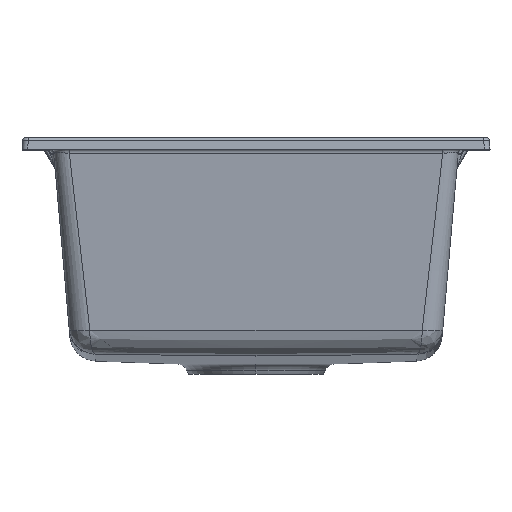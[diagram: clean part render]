
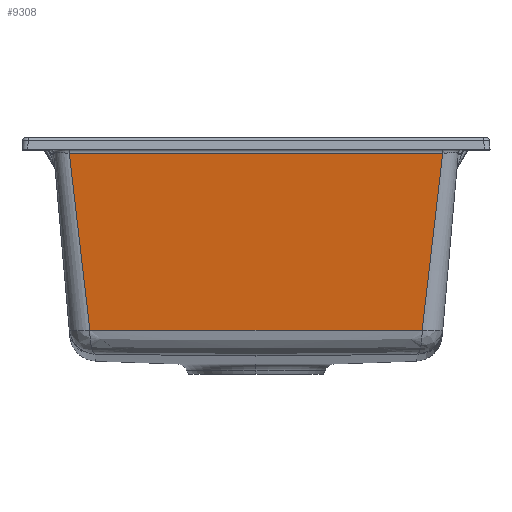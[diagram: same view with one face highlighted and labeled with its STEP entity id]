
A CAD part, top view. The second image highlights one B-rep face of the part: STEP entity #9308.
In plain terms, the highlighted planar face has unit normal (0, -0.087, 0.996).
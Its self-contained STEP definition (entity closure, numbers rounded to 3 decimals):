
#75 = CARTESIAN_POINT ( 'NONE',  ( -97.068, -159.216, 208.467 ) ) ;
#899 = CARTESIAN_POINT ( 'NONE',  ( 145.605, -158.409, 208.537 ) ) ;
#994 = VECTOR ( 'NONE', #8248, 1000. ) ;
#1011 = CARTESIAN_POINT ( 'NONE',  ( -145.598, -158.481, 208.531 ) ) ;
#1148 = ORIENTED_EDGE ( 'NONE', *, *, #4199, .F. ) ;
#1335 = EDGE_CURVE ( 'NONE', #4014, #8077, #7120, .T. ) ;
#1364 = CARTESIAN_POINT ( 'NONE',  ( 145.603, -158.433, 208.535 ) ) ;
#1440 = ORIENTED_EDGE ( 'NONE', *, *, #3522, .F. ) ;
#1574 = VERTEX_POINT ( 'NONE', #2036 ) ;
#1577 = EDGE_LOOP ( 'NONE', ( #1148, #3797, #9979, #1440, #9110, #5583 ) ) ;
#1830 = CARTESIAN_POINT ( 'NONE',  ( -145.601, -158.457, 208.533 ) ) ;
#1853 = CARTESIAN_POINT ( 'NONE',  ( -163.56, -3.564, 222.085 ) ) ;
#1860 = B_SPLINE_CURVE_WITH_KNOTS ( 'NONE', 3,
 ( #8272, #1830, #10132, #4564 ),
 .UNSPECIFIED., .F., .F.,
 ( 4, 4 ),
 ( 0., 0. ),
 .UNSPECIFIED. ) ;
#2036 = CARTESIAN_POINT ( 'NONE',  ( -145.598, -158.481, 208.531 ) ) ;
#2287 = CARTESIAN_POINT ( 'NONE',  ( 145.605, -158.409, 208.537 ) ) ;
#2934 = EDGE_CURVE ( 'NONE', #4298, #10573, #9795, .T. ) ;
#3522 = EDGE_CURVE ( 'NONE', #1574, #4298, #1860, .T. ) ;
#3714 = CARTESIAN_POINT ( 'NONE',  ( 97.068, -159.216, 208.467 ) ) ;
#3797 = ORIENTED_EDGE ( 'NONE', *, *, #8953, .T. ) ;
#4014 = VERTEX_POINT ( 'NONE', #2287 ) ;
#4070 = CARTESIAN_POINT ( 'NONE',  ( 145.605, -158.409, 208.537 ) ) ;
#4199 = EDGE_CURVE ( 'NONE', #6900, #4014, #9551, .T. ) ;
#4298 = VERTEX_POINT ( 'NONE', #9732 ) ;
#4392 = CARTESIAN_POINT ( 'NONE',  ( -150.132, -106.667, 213.064 ) ) ;
#4564 = CARTESIAN_POINT ( 'NONE',  ( -145.605, -158.409, 208.537 ) ) ;
#4587 = DIRECTION ( 'NONE',  ( 0., -0.087, 0.996 ) ) ;
#4626 = CARTESIAN_POINT ( 'NONE',  ( 24.268, -159.781, 208.417 ) ) ;
#5321 = CARTESIAN_POINT ( 'NONE',  ( -145.605, -158.409, 208.537 ) ) ;
#5351 = AXIS2_PLACEMENT_3D ( 'NONE', #10115, #4587, #11062 ) ;
#5562 = CARTESIAN_POINT ( 'NONE',  ( -48.536, -159.663, 208.428 ) ) ;
#5583 = ORIENTED_EDGE ( 'NONE', *, *, #1335, .F. ) ;
#6124 = CARTESIAN_POINT ( 'NONE',  ( 163.56, -3.564, 222.085 ) ) ;
#6258 = CARTESIAN_POINT ( 'NONE',  ( -163.56, -3.564, 222.085 ) ) ;
#6370 = CARTESIAN_POINT ( 'NONE',  ( 150.132, -106.667, 213.064 ) ) ;
#6413 = PLANE ( 'NONE',  #5351 ) ;
#6492 = CARTESIAN_POINT ( 'NONE',  ( -121.334, -158.888, 208.496 ) ) ;
#6636 = EDGE_CURVE ( 'NONE', #8077, #1574, #9529, .T. ) ;
#6900 = VERTEX_POINT ( 'NONE', #6124 ) ;
#7120 = B_SPLINE_CURVE_WITH_KNOTS ( 'NONE', 3,
 ( #4070, #1364, #9669, #10571 ),
 .UNSPECIFIED., .F., .F.,
 ( 4, 4 ),
 ( 0., 0. ),
 .UNSPECIFIED. ) ;
#7319 = CARTESIAN_POINT ( 'NONE',  ( -170.24, -3.564, 222.085 ) ) ;
#7384 = CARTESIAN_POINT ( 'NONE',  ( 145.598, -158.481, 208.531 ) ) ;
#7752 = LINE ( 'NONE', #7319, #994 ) ;
#7897 = FACE_OUTER_BOUND ( 'NONE', #1577, .T. ) ;
#8077 = VERTEX_POINT ( 'NONE', #7384 ) ;
#8248 = DIRECTION ( 'NONE',  ( -1., 0., 0. ) ) ;
#8272 = CARTESIAN_POINT ( 'NONE',  ( -145.598, -158.481, 208.531 ) ) ;
#8324 = CARTESIAN_POINT ( 'NONE',  ( 145.598, -158.481, 208.531 ) ) ;
#8953 = EDGE_CURVE ( 'NONE', #6900, #10573, #7752, .T. ) ;
#9110 = ORIENTED_EDGE ( 'NONE', *, *, #6636, .F. ) ;
#9140 = CARTESIAN_POINT ( 'NONE',  ( 156.765, -55.109, 217.575 ) ) ;
#9258 = CARTESIAN_POINT ( 'NONE',  ( 121.334, -158.888, 208.496 ) ) ;
#9308 = ADVANCED_FACE ( 'NONE', ( #7897 ), #6413, .T. ) ;
#9529 = B_SPLINE_CURVE_WITH_KNOTS ( 'NONE', 3,
 ( #8324, #9258, #3714, #10186, #4626, #11098, #5562, #75, #6492, #1011 ),
 .UNSPECIFIED., .F., .F.,
 ( 4, 2, 2, 2, 4 ),
 ( 0., 0.073, 0.146, 0.218, 0.291 ),
 .UNSPECIFIED. ) ;
#9551 = B_SPLINE_CURVE_WITH_KNOTS ( 'NONE', 3,
 ( #10073, #9140, #6370, #899 ),
 .UNSPECIFIED., .F., .F.,
 ( 4, 4 ),
 ( -0.092, 0.064 ),
 .UNSPECIFIED. ) ;
#9669 = CARTESIAN_POINT ( 'NONE',  ( 145.601, -158.457, 208.533 ) ) ;
#9732 = CARTESIAN_POINT ( 'NONE',  ( -145.605, -158.409, 208.537 ) ) ;
#9795 = B_SPLINE_CURVE_WITH_KNOTS ( 'NONE', 3,
 ( #5321, #4392, #11793, #6258 ),
 .UNSPECIFIED., .F., .F.,
 ( 4, 4 ),
 ( -0.035, 0.122 ),
 .UNSPECIFIED. ) ;
#9979 = ORIENTED_EDGE ( 'NONE', *, *, #2934, .F. ) ;
#10073 = CARTESIAN_POINT ( 'NONE',  ( 163.56, -3.564, 222.085 ) ) ;
#10115 = CARTESIAN_POINT ( 'NONE',  ( -170.24, 9.303, 223.21 ) ) ;
#10132 = CARTESIAN_POINT ( 'NONE',  ( -145.603, -158.433, 208.535 ) ) ;
#10186 = CARTESIAN_POINT ( 'NONE',  ( 48.536, -159.663, 208.428 ) ) ;
#10571 = CARTESIAN_POINT ( 'NONE',  ( 145.598, -158.481, 208.531 ) ) ;
#10573 = VERTEX_POINT ( 'NONE', #1853 ) ;
#11062 = DIRECTION ( 'NONE',  ( 0., -0.996, -0.087 ) ) ;
#11098 = CARTESIAN_POINT ( 'NONE',  ( -24.268, -159.781, 208.417 ) ) ;
#11793 = CARTESIAN_POINT ( 'NONE',  ( -156.765, -55.109, 217.575 ) ) ;
